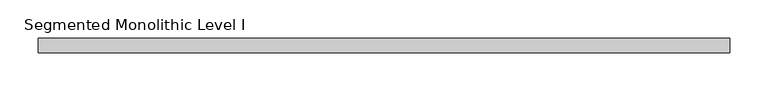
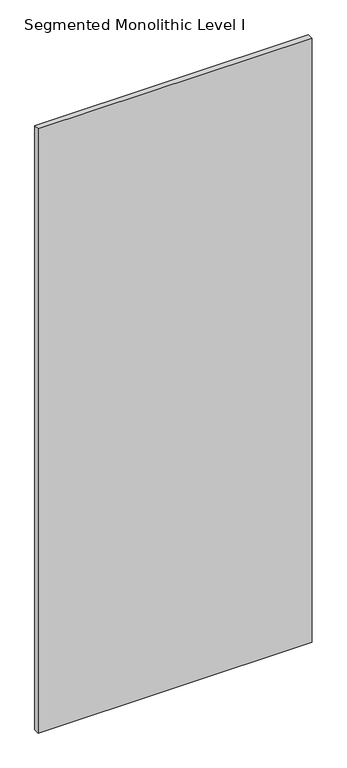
"""IFC4 building model written with IfcOpenShell, lengths in millimetres: proxy geometry, Panel-Fascia-Teknion-Altos-Standard : Segmented Monolithic Level I."""

from ifc_helpers import new_model, si_unit, frame, origin, place, context, project, spatial, polyline, outline, extrude, source, transform, mapped, element, save


def segmented_monolithic_level_i_954095a9(model_context):
    return source(origin(), model_context, "Body", "SweptSolid", [
        extrude(outline(polyline([(454.0305563, 9.525), (454.0305563, -9.525), (-454.0305562, -9.525), (-454.0305562, 9.525), (454.0305563, 9.525)])), frame((0.0, 0.0, 3.175), z_axis=(0.0, 0.0, 1.0), x_axis=(1.0, 0.0, 0.0)), (0.0, 0.0, 1.0), 2117.725),
    ])


if __name__ == "__main__":
    model = new_model("IFC4")
    model_context = context("Model", 3, world=origin())
    ifc_project = project(units=[si_unit("LENGTHUNIT", "METRE", prefix="MILLI")], contexts=[model_context])
    site = spatial("IfcSite", under=ifc_project)
    building = spatial("IfcBuilding", under=site)
    placement = place(None, origin())
    segmented_monolithic_level_i_shape = segmented_monolithic_level_i_954095a9(model_context)
    element("IfcBuildingElementProxy", 1, Name="Panel-Fascia-Teknion-Altos-Standard : Segmented Monolithic Level I", ObjectType="Panel-Fascia-Teknion-Altos-Standard : Segmented Monolithic Level I", at=placement, inside=building, context=model_context, shape_type="MappedRepresentation", body=[
        mapped(segmented_monolithic_level_i_shape, transform((0.0, 0.0, 0.0), x_axis=(1.0, 0.0, 0.0), y_axis=(0.0, 1.0, 0.0), z_axis=(0.0, 0.0, 1.0))),
    ])
    save(model, "model.ifc")
